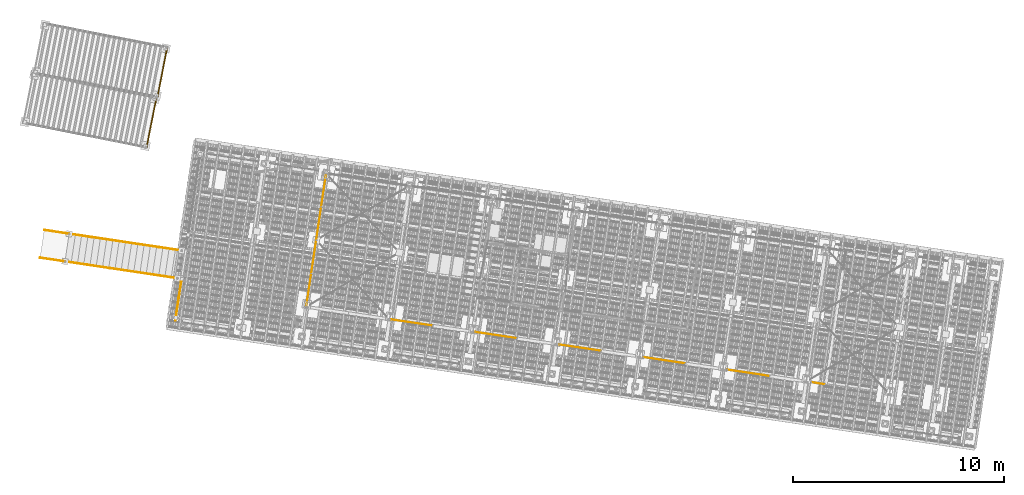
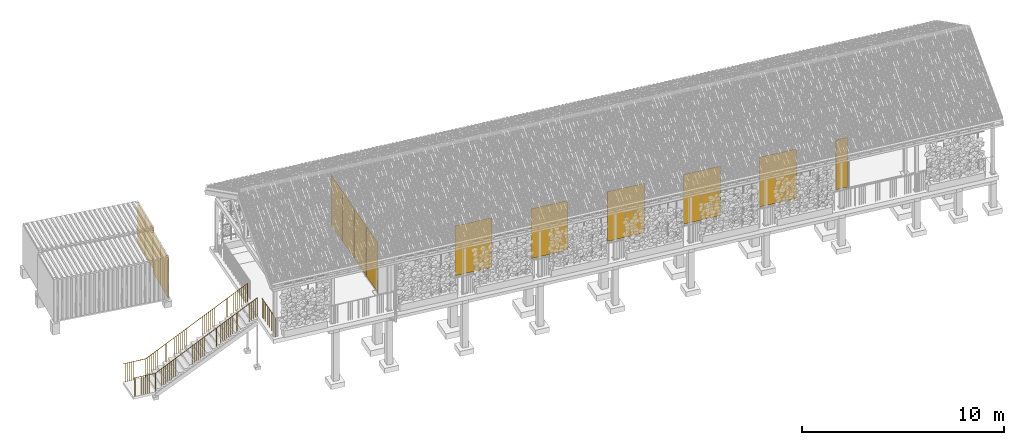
# One storey, part 126 of 131: 11 doors, 5 railings, 3 windows, 4 elements without a shape of their own.
"""IFC4 building model written with IfcOpenShell, lengths in metres."""

from ifc_helpers import new_model, si_unit, direction, frame, origin_with_axes, place, context, subcontext, project, spatial, polyline, circle, outline, extrude, material, element, aggregate, save


model = new_model("IFC4")

# Units and contexts
model_context = context("Model", 3, precision=1e-05, world=origin_with_axes(), true_north=direction((0.0, 1.0)))
body_context = subcontext(model_context, "Body", "Model", "MODEL_VIEW")
ifc_project = project(units=[si_unit("VOLUMEUNIT", "CUBIC_METRE"), si_unit("LENGTHUNIT", "METRE"), si_unit("AREAUNIT", "SQUARE_METRE")], contexts=[model_context])

# Site, building, storey
site_placement = place(None, origin_with_axes())
site = spatial("IfcSite", under=ifc_project, at=site_placement, Name="Lares · Rua das Mercês · artigo 4771")
building_placement = place(site_placement, frame((15.0, 9.7, 15.8), z_axis=(0.0, 0.0, 1.0), x_axis=(0.989015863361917, -0.147809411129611, 0.0)))
building = spatial("IfcBuilding", under=site, at=building_placement, Name="Casa Sobreposta")
storey_placement = place(building_placement, origin_with_axes())
storey = spatial("IfcBuildingStorey", under=building, at=storey_placement, Name="00 · Habitação e estacionamento", Elevation=15.8)

# Doors
ifc_material_1 = material(Name="Vidro / Normalglas", Category="glass")
door_1_placement = place(storey_placement, frame((0.0, 0.0, 0.025), z_axis=(0.0, 0.0, 1.0), x_axis=(1.0, 0.0, 0.0)))
element("IfcDoor", 1, at=door_1_placement, inside=storey, material=ifc_material_1, Name="Folha de correr sul 2", OperationType="SLIDING_TO_LEFT", OverallHeight=3.0, OverallWidth=1.97133333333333, PredefinedType="DOOR", context=body_context, shape_type="SweptSolid", body=[
    extrude(outline(polyline([(6.039, 0.004), (6.039, -0.004), (4.06766666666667, -0.004), (4.06766666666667, 0.004), (6.039, 0.004)])), origin_with_axes(), (0.0, 0.0, 1.0), 3.0),
])
door_2_placement = place(storey_placement, frame((0.0, 0.0, 0.025), z_axis=(0.0, 0.0, 1.0), x_axis=(1.0, 0.0, 0.0)))
element("IfcDoor", 2, at=door_2_placement, inside=storey, material=ifc_material_1, Name="Folha de correr sul 4", OperationType="SLIDING_TO_LEFT", OverallHeight=3.0, OverallWidth=1.97133333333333, PredefinedType="DOOR", context=body_context, shape_type="SweptSolid", body=[
    extrude(outline(polyline([(10.0816666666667, 0.004), (10.0816666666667, -0.004), (8.11033333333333, -0.004), (8.11033333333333, 0.004), (10.0816666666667, 0.004)])), origin_with_axes(), (0.0, 0.0, 1.0), 3.0),
])
door_3_placement = place(storey_placement, frame((0.0, 0.0, 0.025), z_axis=(0.0, 0.0, 1.0), x_axis=(1.0, 0.0, 0.0)))
element("IfcDoor", 3, at=door_3_placement, inside=storey, material=ifc_material_1, Name="Folha de correr sul 6", OperationType="SLIDING_TO_LEFT", OverallHeight=3.0, OverallWidth=1.97133333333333, PredefinedType="DOOR", context=body_context, shape_type="SweptSolid", body=[
    extrude(outline(polyline([(14.1243333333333, 0.004), (14.1243333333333, -0.004), (12.153, -0.004), (12.153, 0.004), (14.1243333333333, 0.004)])), origin_with_axes(), (0.0, 0.0, 1.0), 3.0),
])
door_4_placement = place(storey_placement, frame((0.0, 0.0, 0.025), z_axis=(0.0, 0.0, 1.0), x_axis=(1.0, 0.0, 0.0)))
element("IfcDoor", 4, at=door_4_placement, inside=storey, material=ifc_material_1, Name="Folha de correr sul 8", OperationType="SLIDING_TO_LEFT", OverallHeight=3.0, OverallWidth=1.97133333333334, PredefinedType="DOOR", context=body_context, shape_type="SweptSolid", body=[
    extrude(outline(polyline([(18.167, 0.004), (18.167, -0.004), (16.1956666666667, -0.004), (16.1956666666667, 0.004), (18.167, 0.004)])), origin_with_axes(), (0.0, 0.0, 1.0), 3.0),
])
door_5_placement = place(storey_placement, frame((0.0, 0.0, 0.025), z_axis=(0.0, 0.0, 1.0), x_axis=(1.0, 0.0, 0.0)))
element("IfcDoor", 5, at=door_5_placement, inside=storey, material=ifc_material_1, Name="Folha de correr sul 10", OperationType="SLIDING_TO_LEFT", OverallHeight=3.0, OverallWidth=1.97133333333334, PredefinedType="DOOR", context=body_context, shape_type="SweptSolid", body=[
    extrude(outline(polyline([(22.2096666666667, 0.004), (22.2096666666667, -0.004), (20.2383333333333, -0.004), (20.2383333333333, 0.004), (22.2096666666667, 0.004)])), origin_with_axes(), (0.0, 0.0, 1.0), 3.0),
])
door_6_placement = place(storey_placement, frame((0.0, 0.0, 0.025), z_axis=(0.0, 0.0, 1.0), x_axis=(1.0, 0.0, 0.0)))
element("IfcDoor", 6, at=door_6_placement, inside=storey, material=ifc_material_1, Name="Folha de correr sul 12", OperationType="SLIDING_TO_LEFT", OverallHeight=3.0, OverallWidth=0.614000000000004, PredefinedType="DOOR", context=body_context, shape_type="SweptSolid", body=[
    extrude(outline(polyline([(24.895, 0.004), (24.895, -0.004), (24.281, -0.004), (24.281, 0.004), (24.895, 0.004)])), origin_with_axes(), (0.0, 0.0, 1.0), 3.0),
])

# Windows
window_1_placement = place(storey_placement, frame((0.0, 0.0, 0.025), z_axis=(0.0, 0.0, 1.0), x_axis=(1.0, 0.0, 0.0)))
element("IfcWindow", 7, at=window_1_placement, inside=storey, material=ifc_material_1, Name="Fachada poente integralmente envidraçada · módulo 1", OverallHeight=3.0, OverallWidth=1.55, PartitioningType="SINGLE_PANEL", PredefinedType="WINDOW", context=body_context, shape_type="SweptSolid", body=[
    extrude(outline(polyline([(-0.004, 1.575), (0.004, 1.575), (0.004, 0.025), (-0.004, 0.025), (-0.004, 1.575)])), origin_with_axes(), (0.0, 0.0, 1.0), 3.0),
])
window_2_placement = place(storey_placement, frame((0.0, 0.0, 0.025), z_axis=(0.0, 0.0, 1.0), x_axis=(1.0, 0.0, 0.0)))
element("IfcWindow", 8, at=window_2_placement, inside=storey, material=ifc_material_1, Name="Fachada poente integralmente envidraçada · módulo 2", OverallHeight=3.0, OverallWidth=1.55, PartitioningType="SINGLE_PANEL", PredefinedType="WINDOW", context=body_context, shape_type="SweptSolid", body=[
    extrude(outline(polyline([(-0.004, 3.175), (0.004, 3.175), (0.004, 1.625), (-0.004, 1.625), (-0.004, 3.175)])), origin_with_axes(), (0.0, 0.0, 1.0), 3.0),
])
window_3_placement = place(storey_placement, frame((0.0, 0.0, 0.025), z_axis=(0.0, 0.0, 1.0), x_axis=(1.0, 0.0, 0.0)))
element("IfcWindow", 9, at=window_3_placement, inside=storey, material=ifc_material_1, Name="Fachada poente integralmente envidraçada · módulo 3", OverallHeight=3.0, OverallWidth=1.55, PartitioningType="SINGLE_PANEL", PredefinedType="WINDOW", context=body_context, shape_type="SweptSolid", body=[
    extrude(outline(polyline([(-0.004, 4.775), (0.004, 4.775), (0.004, 3.225), (-0.004, 3.225), (-0.004, 4.775)])), origin_with_axes(), (0.0, 0.0, 1.0), 3.0),
])

# Door
door_7_placement = place(storey_placement, frame((0.0, 0.0, 0.025), z_axis=(0.0, 0.0, 1.0), x_axis=(1.0, 0.0, 0.0)))
element("IfcDoor", 10, at=door_7_placement, inside=storey, material=ifc_material_1, Name="Fachada poente integralmente envidraçada · módulo 4", OperationType="SLIDING_TO_LEFT", OverallHeight=3.0, OverallWidth=1.55, PredefinedType="DOOR", context=body_context, shape_type="SweptSolid", body=[
    extrude(outline(polyline([(-0.004, 6.375), (0.004, 6.375), (0.004, 4.825), (-0.004, 4.825), (-0.004, 6.375)])), origin_with_axes(), (0.0, 0.0, 1.0), 3.0),
])

# Assembly, doors
assembly_1_placement = place(storey_placement, frame((-14.4335953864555, 9.04888612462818, 0.0), z_axis=(0.0, 0.0, 1.0), x_axis=(0.999032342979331, -0.0439815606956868, 0.0)))
assembly_1 = element("IfcElementAssembly", 11, at=assembly_1_placement, inside=storey, Name="Contentor existente 1 · 6 m", ObjectType="EXISTING_SHIPPING_CONTAINER", PredefinedType="USERDEFINED")
ifc_material_2 = material(Name="Contentor · pintura 1", Category="steel")
door_8_placement = place(assembly_1_placement, frame((0.0, 0.0, -2.06314181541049), z_axis=(0.0, 0.0, 1.0), x_axis=(1.0, 0.0, 0.0)))
door_8 = element("IfcDoor", 12, at=door_8_placement, material=ifc_material_2, Name="Contentor · porta dupla", OperationType="SINGLE_SWING_LEFT", OverallHeight=2.39, OverallWidth=1.17, PredefinedType="DOOR", context=body_context, shape_type="SweptSolid", body=[
    extrude(outline(polyline([(5.955, 1.21), (6.005, 1.21), (6.005, 0.04), (5.955, 0.04), (5.955, 1.21)])), origin_with_axes(), (0.0, 0.0, 1.0), 2.39),
])
door_9_placement = place(assembly_1_placement, frame((0.0, 0.0, -2.06314181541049), z_axis=(0.0, 0.0, 1.0), x_axis=(1.0, 0.0, 0.0)))
door_9 = element("IfcDoor", 13, at=door_9_placement, material=ifc_material_2, Name="Contentor · porta dupla", OperationType="SINGLE_SWING_LEFT", OverallHeight=2.39, OverallWidth=1.17, PredefinedType="DOOR", context=body_context, shape_type="SweptSolid", body=[
    extrude(outline(polyline([(5.955, 2.39), (6.005, 2.39), (6.005, 1.22), (5.955, 1.22), (5.955, 2.39)])), origin_with_axes(), (0.0, 0.0, 1.0), 2.39),
])
aggregate(assembly_1, [door_8, door_9])

assembly_2_placement = place(storey_placement, frame((-14.5932944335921, 6.63122214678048, 0.0), z_axis=(0.0, 0.0, 1.0), x_axis=(0.998832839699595, -0.0483007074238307, 0.0)))
assembly_2 = element("IfcElementAssembly", 14, at=assembly_2_placement, inside=storey, Name="Contentor existente 2 · 6 m", ObjectType="EXISTING_SHIPPING_CONTAINER", PredefinedType="USERDEFINED")
ifc_material_3 = material(Name="Contentor · pintura 2", Category="steel")
door_10_placement = place(assembly_2_placement, frame((0.0, 0.0, -2.21875169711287), z_axis=(0.0, 0.0, 1.0), x_axis=(1.0, 0.0, 0.0)))
door_10 = element("IfcDoor", 15, at=door_10_placement, material=ifc_material_3, Name="Contentor · porta dupla", OperationType="SINGLE_SWING_LEFT", OverallHeight=2.39, OverallWidth=1.17, PredefinedType="DOOR", context=body_context, shape_type="SweptSolid", body=[
    extrude(outline(polyline([(5.955, 1.21), (6.005, 1.21), (6.005, 0.04), (5.955, 0.04), (5.955, 1.21)])), origin_with_axes(), (0.0, 0.0, 1.0), 2.39),
])
door_11_placement = place(assembly_2_placement, frame((0.0, 0.0, -2.21875169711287), z_axis=(0.0, 0.0, 1.0), x_axis=(1.0, 0.0, 0.0)))
door_11 = element("IfcDoor", 16, at=door_11_placement, material=ifc_material_3, Name="Contentor · porta dupla", OperationType="SINGLE_SWING_LEFT", OverallHeight=2.39, OverallWidth=1.17, PredefinedType="DOOR", context=body_context, shape_type="SweptSolid", body=[
    extrude(outline(polyline([(5.955, 2.39), (6.005, 2.39), (6.005, 1.22), (5.955, 1.22), (5.955, 2.39)])), origin_with_axes(), (0.0, 0.0, 1.0), 2.39),
])
aggregate(assembly_2, [door_10, door_11])

# Assembly, railing
assembly_3_placement = place(storey_placement, origin_with_axes())
assembly_3 = element("IfcElementAssembly", 17, at=assembly_3_placement, inside=storey, Name="Pódio · terraço, casa térrea e cisterna", ObjectType="CISTERN_PODIUM", PredefinedType="USERDEFINED")
ifc_material_4 = material(Name="Aço pintado / Stahl lackiert", Category="steel")
railing_1_placement = place(assembly_3_placement, origin_with_axes())
railing_1 = element("IfcRailing", 18, at=railing_1_placement, material=ifc_material_4, Name="Pódio · guarda poente sul", PredefinedType="GUARDRAIL", context=body_context, shape_type="SweptSolid", body=[
    extrude(circle(Radius=0.015), frame((-6.05, -1.55, 1.06), z_axis=(0.0, 1.0, 0.0), x_axis=(1.0, 0.0, 0.0)), (0.0, 0.0, 1.0), 1.85),
    extrude(circle(Radius=0.0175), frame((-6.05, -1.55, -0.04), z_axis=(0.0, 0.0, 1.0), x_axis=(1.0, 0.0, 0.0)), (0.0, 0.0, 1.0), 1.1),
    extrude(circle(Radius=0.006), frame((-6.05, -1.44117647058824, -0.04), z_axis=(0.0, 0.0, 1.0), x_axis=(1.0, 0.0, 0.0)), (0.0, 0.0, 1.0), 1.1),
    extrude(circle(Radius=0.006), frame((-6.05, -1.33235294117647, -0.04), z_axis=(0.0, 0.0, 1.0), x_axis=(1.0, 0.0, 0.0)), (0.0, 0.0, 1.0), 1.1),
    extrude(circle(Radius=0.006), frame((-6.05, -1.22352941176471, -0.04), z_axis=(0.0, 0.0, 1.0), x_axis=(1.0, 0.0, 0.0)), (0.0, 0.0, 1.0), 1.1),
    extrude(circle(Radius=0.006), frame((-6.05, -1.11470588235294, -0.04), z_axis=(0.0, 0.0, 1.0), x_axis=(1.0, 0.0, 0.0)), (0.0, 0.0, 1.0), 1.1),
    extrude(circle(Radius=0.006), frame((-6.05, -1.00588235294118, -0.04), z_axis=(0.0, 0.0, 1.0), x_axis=(1.0, 0.0, 0.0)), (0.0, 0.0, 1.0), 1.1),
    extrude(circle(Radius=0.006), frame((-6.05, -0.897058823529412, -0.04), z_axis=(0.0, 0.0, 1.0), x_axis=(1.0, 0.0, 0.0)), (0.0, 0.0, 1.0), 1.1),
    extrude(circle(Radius=0.006), frame((-6.05, -0.788235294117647, -0.04), z_axis=(0.0, 0.0, 1.0), x_axis=(1.0, 0.0, 0.0)), (0.0, 0.0, 1.0), 1.1),
    extrude(circle(Radius=0.006), frame((-6.05, -0.679411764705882, -0.04), z_axis=(0.0, 0.0, 1.0), x_axis=(1.0, 0.0, 0.0)), (0.0, 0.0, 1.0), 1.1),
    extrude(circle(Radius=0.006), frame((-6.05, -0.570588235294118, -0.04), z_axis=(0.0, 0.0, 1.0), x_axis=(1.0, 0.0, 0.0)), (0.0, 0.0, 1.0), 1.1),
    extrude(circle(Radius=0.0175), frame((-6.05, -0.461764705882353, -0.04), z_axis=(0.0, 0.0, 1.0), x_axis=(1.0, 0.0, 0.0)), (0.0, 0.0, 1.0), 1.1),
    extrude(circle(Radius=0.006), frame((-6.05, -0.352941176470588, -0.04), z_axis=(0.0, 0.0, 1.0), x_axis=(1.0, 0.0, 0.0)), (0.0, 0.0, 1.0), 1.1),
    extrude(circle(Radius=0.006), frame((-6.05, -0.244117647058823, -0.04), z_axis=(0.0, 0.0, 1.0), x_axis=(1.0, 0.0, 0.0)), (0.0, 0.0, 1.0), 1.1),
    extrude(circle(Radius=0.006), frame((-6.05, -0.135294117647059, -0.04), z_axis=(0.0, 0.0, 1.0), x_axis=(1.0, 0.0, 0.0)), (0.0, 0.0, 1.0), 1.1),
    extrude(circle(Radius=0.006), frame((-6.05, -0.0264705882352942, -0.04), z_axis=(0.0, 0.0, 1.0), x_axis=(1.0, 0.0, 0.0)), (0.0, 0.0, 1.0), 1.1),
    extrude(circle(Radius=0.006), frame((-6.05, 0.0823529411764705, -0.04), z_axis=(0.0, 0.0, 1.0), x_axis=(1.0, 0.0, 0.0)), (0.0, 0.0, 1.0), 1.1),
    extrude(circle(Radius=0.006), frame((-6.05, 0.191176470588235, -0.04), z_axis=(0.0, 0.0, 1.0), x_axis=(1.0, 0.0, 0.0)), (0.0, 0.0, 1.0), 1.1),
    extrude(circle(Radius=0.006), frame((-6.05, 0.3, -0.04), z_axis=(0.0, 0.0, 1.0), x_axis=(1.0, 0.0, 0.0)), (0.0, 0.0, 1.0), 1.1),
])
aggregate(assembly_3, [railing_1])

# Stair, railings
stair_placement = place(storey_placement, origin_with_axes())
stair = element("IfcStair", 19, at=stair_placement, inside=storey, Name="Jardim · escada pela fachada poente", PredefinedType="STRAIGHT_RUN_STAIR")
railing_2_placement = place(stair_placement, origin_with_axes())
railing_2 = element("IfcRailing", 20, at=railing_2_placement, material=ifc_material_4, Name="Jardim · corrimão poente", PredefinedType="GUARDRAIL", context=body_context, shape_type="SweptSolid", body=[
    extrude(circle(Radius=0.015), frame((-6.25, 0.435, 1.06), z_axis=(-0.863082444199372, 0.0, -0.505063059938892), x_axis=(0.0, 1.0, 0.0)), (0.0, 0.0, 1.0), 6.25664446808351),
    extrude(circle(Radius=0.0175), frame((-6.25, 0.435, -0.04), z_axis=(0.0, 0.0, 1.0), x_axis=(1.0, 0.0, 0.0)), (0.0, 0.0, 1.0), 1.1),
    extrude(circle(Radius=0.006), frame((-6.358, 0.435, -0.1032), z_axis=(0.0, 0.0, 1.0), x_axis=(1.0, 0.0, 0.0)), (0.0, 0.0, 1.0), 1.1),
    extrude(circle(Radius=0.006), frame((-6.466, 0.435, -0.1664), z_axis=(0.0, 0.0, 1.0), x_axis=(1.0, 0.0, 0.0)), (0.0, 0.0, 1.0), 1.1),
    extrude(circle(Radius=0.006), frame((-6.574, 0.435, -0.2296), z_axis=(0.0, 0.0, 1.0), x_axis=(1.0, 0.0, 0.0)), (0.0, 0.0, 1.0), 1.1),
    extrude(circle(Radius=0.006), frame((-6.682, 0.435, -0.2928), z_axis=(0.0, 0.0, 1.0), x_axis=(1.0, 0.0, 0.0)), (0.0, 0.0, 1.0), 1.1),
    extrude(circle(Radius=0.006), frame((-6.79, 0.435, -0.356), z_axis=(0.0, 0.0, 1.0), x_axis=(1.0, 0.0, 0.0)), (0.0, 0.0, 1.0), 1.1),
    extrude(circle(Radius=0.006), frame((-6.898, 0.435, -0.4192), z_axis=(0.0, 0.0, 1.0), x_axis=(1.0, 0.0, 0.0)), (0.0, 0.0, 1.0), 1.1),
    extrude(circle(Radius=0.006), frame((-7.006, 0.435, -0.4824), z_axis=(0.0, 0.0, 1.0), x_axis=(1.0, 0.0, 0.0)), (0.0, 0.0, 1.0), 1.1),
    extrude(circle(Radius=0.006), frame((-7.114, 0.435, -0.5456), z_axis=(0.0, 0.0, 1.0), x_axis=(1.0, 0.0, 0.0)), (0.0, 0.0, 1.0), 1.1),
    extrude(circle(Radius=0.006), frame((-7.222, 0.435, -0.6088), z_axis=(0.0, 0.0, 1.0), x_axis=(1.0, 0.0, 0.0)), (0.0, 0.0, 1.0), 1.1),
    extrude(circle(Radius=0.0175), frame((-7.33, 0.435, -0.672), z_axis=(0.0, 0.0, 1.0), x_axis=(1.0, 0.0, 0.0)), (0.0, 0.0, 1.0), 1.1),
    extrude(circle(Radius=0.006), frame((-7.438, 0.435, -0.7352), z_axis=(0.0, 0.0, 1.0), x_axis=(1.0, 0.0, 0.0)), (0.0, 0.0, 1.0), 1.1),
    extrude(circle(Radius=0.006), frame((-7.546, 0.435, -0.7984), z_axis=(0.0, 0.0, 1.0), x_axis=(1.0, 0.0, 0.0)), (0.0, 0.0, 1.0), 1.1),
    extrude(circle(Radius=0.006), frame((-7.654, 0.435, -0.8616), z_axis=(0.0, 0.0, 1.0), x_axis=(1.0, 0.0, 0.0)), (0.0, 0.0, 1.0), 1.1),
    extrude(circle(Radius=0.006), frame((-7.762, 0.435, -0.9248), z_axis=(0.0, 0.0, 1.0), x_axis=(1.0, 0.0, 0.0)), (0.0, 0.0, 1.0), 1.1),
    extrude(circle(Radius=0.006), frame((-7.87, 0.435, -0.988), z_axis=(0.0, 0.0, 1.0), x_axis=(1.0, 0.0, 0.0)), (0.0, 0.0, 1.0), 1.1),
    extrude(circle(Radius=0.006), frame((-7.978, 0.435, -1.0512), z_axis=(0.0, 0.0, 1.0), x_axis=(1.0, 0.0, 0.0)), (0.0, 0.0, 1.0), 1.1),
    extrude(circle(Radius=0.006), frame((-8.086, 0.435, -1.1144), z_axis=(0.0, 0.0, 1.0), x_axis=(1.0, 0.0, 0.0)), (0.0, 0.0, 1.0), 1.1),
    extrude(circle(Radius=0.006), frame((-8.194, 0.435, -1.1776), z_axis=(0.0, 0.0, 1.0), x_axis=(1.0, 0.0, 0.0)), (0.0, 0.0, 1.0), 1.1),
    extrude(circle(Radius=0.006), frame((-8.302, 0.435, -1.2408), z_axis=(0.0, 0.0, 1.0), x_axis=(1.0, 0.0, 0.0)), (0.0, 0.0, 1.0), 1.1),
    extrude(circle(Radius=0.0175), frame((-8.41, 0.435, -1.304), z_axis=(0.0, 0.0, 1.0), x_axis=(1.0, 0.0, 0.0)), (0.0, 0.0, 1.0), 1.1),
    extrude(circle(Radius=0.006), frame((-8.518, 0.435, -1.3672), z_axis=(0.0, 0.0, 1.0), x_axis=(1.0, 0.0, 0.0)), (0.0, 0.0, 1.0), 1.1),
    extrude(circle(Radius=0.006), frame((-8.626, 0.435, -1.4304), z_axis=(0.0, 0.0, 1.0), x_axis=(1.0, 0.0, 0.0)), (0.0, 0.0, 1.0), 1.1),
    extrude(circle(Radius=0.006), frame((-8.734, 0.435, -1.4936), z_axis=(0.0, 0.0, 1.0), x_axis=(1.0, 0.0, 0.0)), (0.0, 0.0, 1.0), 1.1),
    extrude(circle(Radius=0.006), frame((-8.842, 0.435, -1.5568), z_axis=(0.0, 0.0, 1.0), x_axis=(1.0, 0.0, 0.0)), (0.0, 0.0, 1.0), 1.1),
    extrude(circle(Radius=0.006), frame((-8.95, 0.435, -1.62), z_axis=(0.0, 0.0, 1.0), x_axis=(1.0, 0.0, 0.0)), (0.0, 0.0, 1.0), 1.1),
    extrude(circle(Radius=0.006), frame((-9.058, 0.435, -1.6832), z_axis=(0.0, 0.0, 1.0), x_axis=(1.0, 0.0, 0.0)), (0.0, 0.0, 1.0), 1.1),
    extrude(circle(Radius=0.006), frame((-9.166, 0.435, -1.7464), z_axis=(0.0, 0.0, 1.0), x_axis=(1.0, 0.0, 0.0)), (0.0, 0.0, 1.0), 1.1),
    extrude(circle(Radius=0.006), frame((-9.274, 0.435, -1.8096), z_axis=(0.0, 0.0, 1.0), x_axis=(1.0, 0.0, 0.0)), (0.0, 0.0, 1.0), 1.1),
    extrude(circle(Radius=0.006), frame((-9.382, 0.435, -1.8728), z_axis=(0.0, 0.0, 1.0), x_axis=(1.0, 0.0, 0.0)), (0.0, 0.0, 1.0), 1.1),
    extrude(circle(Radius=0.0175), frame((-9.49, 0.435, -1.936), z_axis=(0.0, 0.0, 1.0), x_axis=(1.0, 0.0, 0.0)), (0.0, 0.0, 1.0), 1.1),
    extrude(circle(Radius=0.006), frame((-9.598, 0.435, -1.9992), z_axis=(0.0, 0.0, 1.0), x_axis=(1.0, 0.0, 0.0)), (0.0, 0.0, 1.0), 1.1),
    extrude(circle(Radius=0.006), frame((-9.706, 0.435, -2.0624), z_axis=(0.0, 0.0, 1.0), x_axis=(1.0, 0.0, 0.0)), (0.0, 0.0, 1.0), 1.1),
    extrude(circle(Radius=0.006), frame((-9.814, 0.435, -2.1256), z_axis=(0.0, 0.0, 1.0), x_axis=(1.0, 0.0, 0.0)), (0.0, 0.0, 1.0), 1.1),
    extrude(circle(Radius=0.006), frame((-9.922, 0.435, -2.1888), z_axis=(0.0, 0.0, 1.0), x_axis=(1.0, 0.0, 0.0)), (0.0, 0.0, 1.0), 1.1),
    extrude(circle(Radius=0.006), frame((-10.03, 0.435, -2.252), z_axis=(0.0, 0.0, 1.0), x_axis=(1.0, 0.0, 0.0)), (0.0, 0.0, 1.0), 1.1),
    extrude(circle(Radius=0.006), frame((-10.138, 0.435, -2.3152), z_axis=(0.0, 0.0, 1.0), x_axis=(1.0, 0.0, 0.0)), (0.0, 0.0, 1.0), 1.1),
    extrude(circle(Radius=0.006), frame((-10.246, 0.435, -2.3784), z_axis=(0.0, 0.0, 1.0), x_axis=(1.0, 0.0, 0.0)), (0.0, 0.0, 1.0), 1.1),
    extrude(circle(Radius=0.006), frame((-10.354, 0.435, -2.4416), z_axis=(0.0, 0.0, 1.0), x_axis=(1.0, 0.0, 0.0)), (0.0, 0.0, 1.0), 1.1),
    extrude(circle(Radius=0.006), frame((-10.462, 0.435, -2.5048), z_axis=(0.0, 0.0, 1.0), x_axis=(1.0, 0.0, 0.0)), (0.0, 0.0, 1.0), 1.1),
    extrude(circle(Radius=0.0175), frame((-10.57, 0.435, -2.568), z_axis=(0.0, 0.0, 1.0), x_axis=(1.0, 0.0, 0.0)), (0.0, 0.0, 1.0), 1.1),
    extrude(circle(Radius=0.006), frame((-10.678, 0.435, -2.6312), z_axis=(0.0, 0.0, 1.0), x_axis=(1.0, 0.0, 0.0)), (0.0, 0.0, 1.0), 1.1),
    extrude(circle(Radius=0.006), frame((-10.786, 0.435, -2.6944), z_axis=(0.0, 0.0, 1.0), x_axis=(1.0, 0.0, 0.0)), (0.0, 0.0, 1.0), 1.1),
    extrude(circle(Radius=0.006), frame((-10.894, 0.435, -2.7576), z_axis=(0.0, 0.0, 1.0), x_axis=(1.0, 0.0, 0.0)), (0.0, 0.0, 1.0), 1.1),
    extrude(circle(Radius=0.006), frame((-11.002, 0.435, -2.8208), z_axis=(0.0, 0.0, 1.0), x_axis=(1.0, 0.0, 0.0)), (0.0, 0.0, 1.0), 1.1),
    extrude(circle(Radius=0.006), frame((-11.11, 0.435, -2.884), z_axis=(0.0, 0.0, 1.0), x_axis=(1.0, 0.0, 0.0)), (0.0, 0.0, 1.0), 1.1),
    extrude(circle(Radius=0.006), frame((-11.218, 0.435, -2.9472), z_axis=(0.0, 0.0, 1.0), x_axis=(1.0, 0.0, 0.0)), (0.0, 0.0, 1.0), 1.1),
    extrude(circle(Radius=0.006), frame((-11.326, 0.435, -3.0104), z_axis=(0.0, 0.0, 1.0), x_axis=(1.0, 0.0, 0.0)), (0.0, 0.0, 1.0), 1.1),
    extrude(circle(Radius=0.006), frame((-11.434, 0.435, -3.0736), z_axis=(0.0, 0.0, 1.0), x_axis=(1.0, 0.0, 0.0)), (0.0, 0.0, 1.0), 1.1),
    extrude(circle(Radius=0.006), frame((-11.542, 0.435, -3.1368), z_axis=(0.0, 0.0, 1.0), x_axis=(1.0, 0.0, 0.0)), (0.0, 0.0, 1.0), 1.1),
    extrude(circle(Radius=0.0175), frame((-11.65, 0.435, -3.2), z_axis=(0.0, 0.0, 1.0), x_axis=(1.0, 0.0, 0.0)), (0.0, 0.0, 1.0), 1.1),
])
railing_3_placement = place(stair_placement, origin_with_axes())
railing_3 = element("IfcRailing", 21, at=railing_3_placement, material=ifc_material_4, Name="Jardim · guarda do patamar", PredefinedType="GUARDRAIL", context=body_context, shape_type="SweptSolid", body=[
    extrude(circle(Radius=0.015), frame((-11.65, 0.435, -2.1), z_axis=(-1.0, 0.0, 0.0), x_axis=(0.0, 1.0, 0.0)), (0.0, 0.0, 1.0), 1.2),
    extrude(circle(Radius=0.0175), frame((-11.65, 0.435, -3.2), z_axis=(0.0, 0.0, 1.0), x_axis=(1.0, 0.0, 0.0)), (0.0, 0.0, 1.0), 1.1),
    extrude(circle(Radius=0.006), frame((-11.7590909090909, 0.435, -3.2), z_axis=(0.0, 0.0, 1.0), x_axis=(1.0, 0.0, 0.0)), (0.0, 0.0, 1.0), 1.1),
    extrude(circle(Radius=0.006), frame((-11.8681818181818, 0.435, -3.2), z_axis=(0.0, 0.0, 1.0), x_axis=(1.0, 0.0, 0.0)), (0.0, 0.0, 1.0), 1.1),
    extrude(circle(Radius=0.006), frame((-11.9772727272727, 0.435, -3.2), z_axis=(0.0, 0.0, 1.0), x_axis=(1.0, 0.0, 0.0)), (0.0, 0.0, 1.0), 1.1),
    extrude(circle(Radius=0.006), frame((-12.0863636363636, 0.435, -3.2), z_axis=(0.0, 0.0, 1.0), x_axis=(1.0, 0.0, 0.0)), (0.0, 0.0, 1.0), 1.1),
    extrude(circle(Radius=0.006), frame((-12.1954545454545, 0.435, -3.2), z_axis=(0.0, 0.0, 1.0), x_axis=(1.0, 0.0, 0.0)), (0.0, 0.0, 1.0), 1.1),
    extrude(circle(Radius=0.006), frame((-12.3045454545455, 0.435, -3.2), z_axis=(0.0, 0.0, 1.0), x_axis=(1.0, 0.0, 0.0)), (0.0, 0.0, 1.0), 1.1),
    extrude(circle(Radius=0.006), frame((-12.4136363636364, 0.435, -3.2), z_axis=(0.0, 0.0, 1.0), x_axis=(1.0, 0.0, 0.0)), (0.0, 0.0, 1.0), 1.1),
    extrude(circle(Radius=0.006), frame((-12.5227272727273, 0.435, -3.2), z_axis=(0.0, 0.0, 1.0), x_axis=(1.0, 0.0, 0.0)), (0.0, 0.0, 1.0), 1.1),
    extrude(circle(Radius=0.006), frame((-12.6318181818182, 0.435, -3.2), z_axis=(0.0, 0.0, 1.0), x_axis=(1.0, 0.0, 0.0)), (0.0, 0.0, 1.0), 1.1),
    extrude(circle(Radius=0.0175), frame((-12.7409090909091, 0.435, -3.2), z_axis=(0.0, 0.0, 1.0), x_axis=(1.0, 0.0, 0.0)), (0.0, 0.0, 1.0), 1.1),
    extrude(circle(Radius=0.006), frame((-12.85, 0.435, -3.2), z_axis=(0.0, 0.0, 1.0), x_axis=(1.0, 0.0, 0.0)), (0.0, 0.0, 1.0), 1.1),
])
railing_4_placement = place(stair_placement, origin_with_axes())
railing_4 = element("IfcRailing", 22, at=railing_4_placement, material=ifc_material_4, Name="Jardim · corrimão poente", PredefinedType="GUARDRAIL", context=body_context, shape_type="SweptSolid", body=[
    extrude(circle(Radius=0.015), frame((-6.25, 1.765, 1.06), z_axis=(-0.863082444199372, 0.0, -0.505063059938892), x_axis=(0.0, 1.0, 0.0)), (0.0, 0.0, 1.0), 6.25664446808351),
    extrude(circle(Radius=0.0175), frame((-6.25, 1.765, -0.04), z_axis=(0.0, 0.0, 1.0), x_axis=(1.0, 0.0, 0.0)), (0.0, 0.0, 1.0), 1.1),
    extrude(circle(Radius=0.006), frame((-6.358, 1.765, -0.1032), z_axis=(0.0, 0.0, 1.0), x_axis=(1.0, 0.0, 0.0)), (0.0, 0.0, 1.0), 1.1),
    extrude(circle(Radius=0.006), frame((-6.466, 1.765, -0.1664), z_axis=(0.0, 0.0, 1.0), x_axis=(1.0, 0.0, 0.0)), (0.0, 0.0, 1.0), 1.1),
    extrude(circle(Radius=0.006), frame((-6.574, 1.765, -0.2296), z_axis=(0.0, 0.0, 1.0), x_axis=(1.0, 0.0, 0.0)), (0.0, 0.0, 1.0), 1.1),
    extrude(circle(Radius=0.006), frame((-6.682, 1.765, -0.2928), z_axis=(0.0, 0.0, 1.0), x_axis=(1.0, 0.0, 0.0)), (0.0, 0.0, 1.0), 1.1),
    extrude(circle(Radius=0.006), frame((-6.79, 1.765, -0.356), z_axis=(0.0, 0.0, 1.0), x_axis=(1.0, 0.0, 0.0)), (0.0, 0.0, 1.0), 1.1),
    extrude(circle(Radius=0.006), frame((-6.898, 1.765, -0.4192), z_axis=(0.0, 0.0, 1.0), x_axis=(1.0, 0.0, 0.0)), (0.0, 0.0, 1.0), 1.1),
    extrude(circle(Radius=0.006), frame((-7.006, 1.765, -0.4824), z_axis=(0.0, 0.0, 1.0), x_axis=(1.0, 0.0, 0.0)), (0.0, 0.0, 1.0), 1.1),
    extrude(circle(Radius=0.006), frame((-7.114, 1.765, -0.5456), z_axis=(0.0, 0.0, 1.0), x_axis=(1.0, 0.0, 0.0)), (0.0, 0.0, 1.0), 1.1),
    extrude(circle(Radius=0.006), frame((-7.222, 1.765, -0.6088), z_axis=(0.0, 0.0, 1.0), x_axis=(1.0, 0.0, 0.0)), (0.0, 0.0, 1.0), 1.1),
    extrude(circle(Radius=0.0175), frame((-7.33, 1.765, -0.672), z_axis=(0.0, 0.0, 1.0), x_axis=(1.0, 0.0, 0.0)), (0.0, 0.0, 1.0), 1.1),
    extrude(circle(Radius=0.006), frame((-7.438, 1.765, -0.7352), z_axis=(0.0, 0.0, 1.0), x_axis=(1.0, 0.0, 0.0)), (0.0, 0.0, 1.0), 1.1),
    extrude(circle(Radius=0.006), frame((-7.546, 1.765, -0.7984), z_axis=(0.0, 0.0, 1.0), x_axis=(1.0, 0.0, 0.0)), (0.0, 0.0, 1.0), 1.1),
    extrude(circle(Radius=0.006), frame((-7.654, 1.765, -0.8616), z_axis=(0.0, 0.0, 1.0), x_axis=(1.0, 0.0, 0.0)), (0.0, 0.0, 1.0), 1.1),
    extrude(circle(Radius=0.006), frame((-7.762, 1.765, -0.9248), z_axis=(0.0, 0.0, 1.0), x_axis=(1.0, 0.0, 0.0)), (0.0, 0.0, 1.0), 1.1),
    extrude(circle(Radius=0.006), frame((-7.87, 1.765, -0.988), z_axis=(0.0, 0.0, 1.0), x_axis=(1.0, 0.0, 0.0)), (0.0, 0.0, 1.0), 1.1),
    extrude(circle(Radius=0.006), frame((-7.978, 1.765, -1.0512), z_axis=(0.0, 0.0, 1.0), x_axis=(1.0, 0.0, 0.0)), (0.0, 0.0, 1.0), 1.1),
    extrude(circle(Radius=0.006), frame((-8.086, 1.765, -1.1144), z_axis=(0.0, 0.0, 1.0), x_axis=(1.0, 0.0, 0.0)), (0.0, 0.0, 1.0), 1.1),
    extrude(circle(Radius=0.006), frame((-8.194, 1.765, -1.1776), z_axis=(0.0, 0.0, 1.0), x_axis=(1.0, 0.0, 0.0)), (0.0, 0.0, 1.0), 1.1),
    extrude(circle(Radius=0.006), frame((-8.302, 1.765, -1.2408), z_axis=(0.0, 0.0, 1.0), x_axis=(1.0, 0.0, 0.0)), (0.0, 0.0, 1.0), 1.1),
    extrude(circle(Radius=0.0175), frame((-8.41, 1.765, -1.304), z_axis=(0.0, 0.0, 1.0), x_axis=(1.0, 0.0, 0.0)), (0.0, 0.0, 1.0), 1.1),
    extrude(circle(Radius=0.006), frame((-8.518, 1.765, -1.3672), z_axis=(0.0, 0.0, 1.0), x_axis=(1.0, 0.0, 0.0)), (0.0, 0.0, 1.0), 1.1),
    extrude(circle(Radius=0.006), frame((-8.626, 1.765, -1.4304), z_axis=(0.0, 0.0, 1.0), x_axis=(1.0, 0.0, 0.0)), (0.0, 0.0, 1.0), 1.1),
    extrude(circle(Radius=0.006), frame((-8.734, 1.765, -1.4936), z_axis=(0.0, 0.0, 1.0), x_axis=(1.0, 0.0, 0.0)), (0.0, 0.0, 1.0), 1.1),
    extrude(circle(Radius=0.006), frame((-8.842, 1.765, -1.5568), z_axis=(0.0, 0.0, 1.0), x_axis=(1.0, 0.0, 0.0)), (0.0, 0.0, 1.0), 1.1),
    extrude(circle(Radius=0.006), frame((-8.95, 1.765, -1.62), z_axis=(0.0, 0.0, 1.0), x_axis=(1.0, 0.0, 0.0)), (0.0, 0.0, 1.0), 1.1),
    extrude(circle(Radius=0.006), frame((-9.058, 1.765, -1.6832), z_axis=(0.0, 0.0, 1.0), x_axis=(1.0, 0.0, 0.0)), (0.0, 0.0, 1.0), 1.1),
    extrude(circle(Radius=0.006), frame((-9.166, 1.765, -1.7464), z_axis=(0.0, 0.0, 1.0), x_axis=(1.0, 0.0, 0.0)), (0.0, 0.0, 1.0), 1.1),
    extrude(circle(Radius=0.006), frame((-9.274, 1.765, -1.8096), z_axis=(0.0, 0.0, 1.0), x_axis=(1.0, 0.0, 0.0)), (0.0, 0.0, 1.0), 1.1),
    extrude(circle(Radius=0.006), frame((-9.382, 1.765, -1.8728), z_axis=(0.0, 0.0, 1.0), x_axis=(1.0, 0.0, 0.0)), (0.0, 0.0, 1.0), 1.1),
    extrude(circle(Radius=0.0175), frame((-9.49, 1.765, -1.936), z_axis=(0.0, 0.0, 1.0), x_axis=(1.0, 0.0, 0.0)), (0.0, 0.0, 1.0), 1.1),
    extrude(circle(Radius=0.006), frame((-9.598, 1.765, -1.9992), z_axis=(0.0, 0.0, 1.0), x_axis=(1.0, 0.0, 0.0)), (0.0, 0.0, 1.0), 1.1),
    extrude(circle(Radius=0.006), frame((-9.706, 1.765, -2.0624), z_axis=(0.0, 0.0, 1.0), x_axis=(1.0, 0.0, 0.0)), (0.0, 0.0, 1.0), 1.1),
    extrude(circle(Radius=0.006), frame((-9.814, 1.765, -2.1256), z_axis=(0.0, 0.0, 1.0), x_axis=(1.0, 0.0, 0.0)), (0.0, 0.0, 1.0), 1.1),
    extrude(circle(Radius=0.006), frame((-9.922, 1.765, -2.1888), z_axis=(0.0, 0.0, 1.0), x_axis=(1.0, 0.0, 0.0)), (0.0, 0.0, 1.0), 1.1),
    extrude(circle(Radius=0.006), frame((-10.03, 1.765, -2.252), z_axis=(0.0, 0.0, 1.0), x_axis=(1.0, 0.0, 0.0)), (0.0, 0.0, 1.0), 1.1),
    extrude(circle(Radius=0.006), frame((-10.138, 1.765, -2.3152), z_axis=(0.0, 0.0, 1.0), x_axis=(1.0, 0.0, 0.0)), (0.0, 0.0, 1.0), 1.1),
    extrude(circle(Radius=0.006), frame((-10.246, 1.765, -2.3784), z_axis=(0.0, 0.0, 1.0), x_axis=(1.0, 0.0, 0.0)), (0.0, 0.0, 1.0), 1.1),
    extrude(circle(Radius=0.006), frame((-10.354, 1.765, -2.4416), z_axis=(0.0, 0.0, 1.0), x_axis=(1.0, 0.0, 0.0)), (0.0, 0.0, 1.0), 1.1),
    extrude(circle(Radius=0.006), frame((-10.462, 1.765, -2.5048), z_axis=(0.0, 0.0, 1.0), x_axis=(1.0, 0.0, 0.0)), (0.0, 0.0, 1.0), 1.1),
    extrude(circle(Radius=0.0175), frame((-10.57, 1.765, -2.568), z_axis=(0.0, 0.0, 1.0), x_axis=(1.0, 0.0, 0.0)), (0.0, 0.0, 1.0), 1.1),
    extrude(circle(Radius=0.006), frame((-10.678, 1.765, -2.6312), z_axis=(0.0, 0.0, 1.0), x_axis=(1.0, 0.0, 0.0)), (0.0, 0.0, 1.0), 1.1),
    extrude(circle(Radius=0.006), frame((-10.786, 1.765, -2.6944), z_axis=(0.0, 0.0, 1.0), x_axis=(1.0, 0.0, 0.0)), (0.0, 0.0, 1.0), 1.1),
    extrude(circle(Radius=0.006), frame((-10.894, 1.765, -2.7576), z_axis=(0.0, 0.0, 1.0), x_axis=(1.0, 0.0, 0.0)), (0.0, 0.0, 1.0), 1.1),
    extrude(circle(Radius=0.006), frame((-11.002, 1.765, -2.8208), z_axis=(0.0, 0.0, 1.0), x_axis=(1.0, 0.0, 0.0)), (0.0, 0.0, 1.0), 1.1),
    extrude(circle(Radius=0.006), frame((-11.11, 1.765, -2.884), z_axis=(0.0, 0.0, 1.0), x_axis=(1.0, 0.0, 0.0)), (0.0, 0.0, 1.0), 1.1),
    extrude(circle(Radius=0.006), frame((-11.218, 1.765, -2.9472), z_axis=(0.0, 0.0, 1.0), x_axis=(1.0, 0.0, 0.0)), (0.0, 0.0, 1.0), 1.1),
    extrude(circle(Radius=0.006), frame((-11.326, 1.765, -3.0104), z_axis=(0.0, 0.0, 1.0), x_axis=(1.0, 0.0, 0.0)), (0.0, 0.0, 1.0), 1.1),
    extrude(circle(Radius=0.006), frame((-11.434, 1.765, -3.0736), z_axis=(0.0, 0.0, 1.0), x_axis=(1.0, 0.0, 0.0)), (0.0, 0.0, 1.0), 1.1),
    extrude(circle(Radius=0.006), frame((-11.542, 1.765, -3.1368), z_axis=(0.0, 0.0, 1.0), x_axis=(1.0, 0.0, 0.0)), (0.0, 0.0, 1.0), 1.1),
    extrude(circle(Radius=0.0175), frame((-11.65, 1.765, -3.2), z_axis=(0.0, 0.0, 1.0), x_axis=(1.0, 0.0, 0.0)), (0.0, 0.0, 1.0), 1.1),
])
railing_5_placement = place(stair_placement, origin_with_axes())
railing_5 = element("IfcRailing", 23, at=railing_5_placement, material=ifc_material_4, Name="Jardim · guarda do patamar", PredefinedType="GUARDRAIL", context=body_context, shape_type="SweptSolid", body=[
    extrude(circle(Radius=0.015), frame((-11.65, 1.765, -2.1), z_axis=(-1.0, 0.0, 0.0), x_axis=(0.0, 1.0, 0.0)), (0.0, 0.0, 1.0), 1.2),
    extrude(circle(Radius=0.0175), frame((-11.65, 1.765, -3.2), z_axis=(0.0, 0.0, 1.0), x_axis=(1.0, 0.0, 0.0)), (0.0, 0.0, 1.0), 1.1),
    extrude(circle(Radius=0.006), frame((-11.7590909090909, 1.765, -3.2), z_axis=(0.0, 0.0, 1.0), x_axis=(1.0, 0.0, 0.0)), (0.0, 0.0, 1.0), 1.1),
    extrude(circle(Radius=0.006), frame((-11.8681818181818, 1.765, -3.2), z_axis=(0.0, 0.0, 1.0), x_axis=(1.0, 0.0, 0.0)), (0.0, 0.0, 1.0), 1.1),
    extrude(circle(Radius=0.006), frame((-11.9772727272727, 1.765, -3.2), z_axis=(0.0, 0.0, 1.0), x_axis=(1.0, 0.0, 0.0)), (0.0, 0.0, 1.0), 1.1),
    extrude(circle(Radius=0.006), frame((-12.0863636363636, 1.765, -3.2), z_axis=(0.0, 0.0, 1.0), x_axis=(1.0, 0.0, 0.0)), (0.0, 0.0, 1.0), 1.1),
    extrude(circle(Radius=0.006), frame((-12.1954545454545, 1.765, -3.2), z_axis=(0.0, 0.0, 1.0), x_axis=(1.0, 0.0, 0.0)), (0.0, 0.0, 1.0), 1.1),
    extrude(circle(Radius=0.006), frame((-12.3045454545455, 1.765, -3.2), z_axis=(0.0, 0.0, 1.0), x_axis=(1.0, 0.0, 0.0)), (0.0, 0.0, 1.0), 1.1),
    extrude(circle(Radius=0.006), frame((-12.4136363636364, 1.765, -3.2), z_axis=(0.0, 0.0, 1.0), x_axis=(1.0, 0.0, 0.0)), (0.0, 0.0, 1.0), 1.1),
    extrude(circle(Radius=0.006), frame((-12.5227272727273, 1.765, -3.2), z_axis=(0.0, 0.0, 1.0), x_axis=(1.0, 0.0, 0.0)), (0.0, 0.0, 1.0), 1.1),
    extrude(circle(Radius=0.006), frame((-12.6318181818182, 1.765, -3.2), z_axis=(0.0, 0.0, 1.0), x_axis=(1.0, 0.0, 0.0)), (0.0, 0.0, 1.0), 1.1),
    extrude(circle(Radius=0.0175), frame((-12.7409090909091, 1.765, -3.2), z_axis=(0.0, 0.0, 1.0), x_axis=(1.0, 0.0, 0.0)), (0.0, 0.0, 1.0), 1.1),
    extrude(circle(Radius=0.006), frame((-12.85, 1.765, -3.2), z_axis=(0.0, 0.0, 1.0), x_axis=(1.0, 0.0, 0.0)), (0.0, 0.0, 1.0), 1.1),
])
aggregate(stair, [railing_2, railing_3, railing_4, railing_5])

save(model, "model.ifc")
